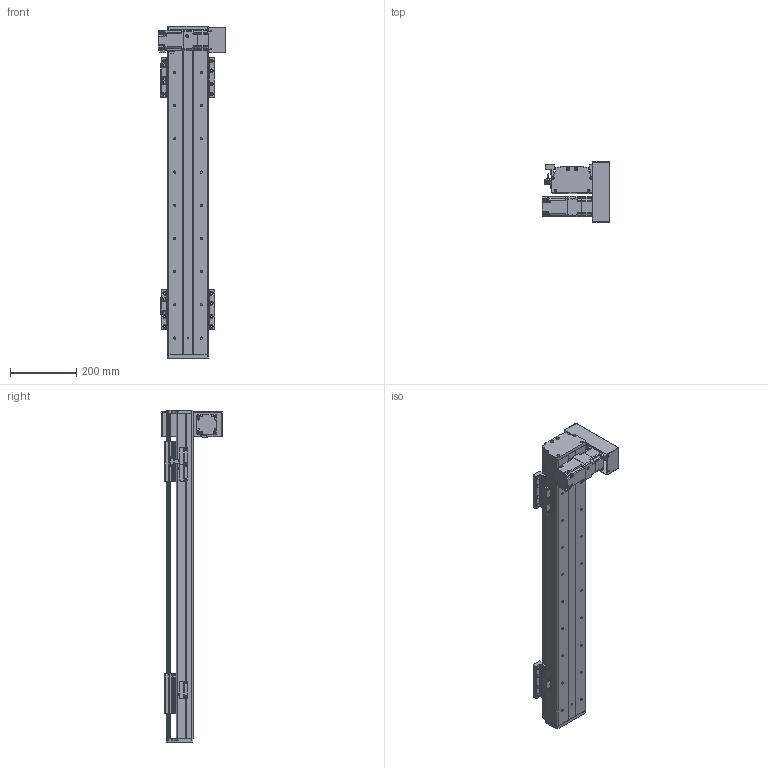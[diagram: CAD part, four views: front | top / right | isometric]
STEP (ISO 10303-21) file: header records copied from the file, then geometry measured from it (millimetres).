
FILE_DESCRIPTION(/* description */ (''),/* implementation_level */ '2;1');
FILE_NAME(/* name */ 'C:\Users\PC\Desktop\3D도면\STEP\새 폴더\DSB125-DR2G-W0700-L.stp',/* time_stamp */ '2018-06-21T14:57:14+09:00',/* author */ ('PC'),/* organization */ (''),/* preprocessor_version */ 'ST-DEVELOPER v16.5',/* originating_system */ 'Autodesk Inventor 2017',/* authorisation */ '');
FILE_SCHEMA (('AUTOMOTIVE_DESIGN { 1 0 10303 214 3 1 1 }'));
Length unit declared in the file: millimetre
Products named in the file (12): DSB125-DL2G-W0700-R_MIR; DSB125-BASE_MIR; DSB125-FRONT COVER_MIR; DSB125-REAR COVER_MIR; DSB125-UP COVER_MIR; hg-kr23__MIR; ab0601-p0401200402_MIR; 13-BELT COVER_MIR; DSR125-SENSOR DOG_MIR; pm-y65_step_MIR; SENSOR BRACKET(EE-SX674A)_MIR; DSB125-TABLE(MSB15S)_MIR
Assembly tree (16 placements, depth 2):
  DSB125-DL2G-W0700-R_MIR
    DSB125-BASE_MIR
    DSB125-FRONT COVER_MIR
    DSB125-REAR COVER_MIR
    DSB125-UP COVER_MIR
    hg-kr23__MIR
    ab0601-p0401200402_MIR
    13-BELT COVER_MIR
    DSR125-SENSOR DOG_MIR
    pm-y65_step_MIR  x3
    SENSOR BRACKET(EE-SX674A)_MIR  x3
    DSB125-TABLE(MSB15S)_MIR  x2
Bounding box: 202.1 x 182 x 1000 mm (x, y, z)
Volume: 3977591.6 mm3; surface area: 1147483.8 mm2
Topology: 17 solids, 17 shells, 1651 faces, 4480 edges, 2954 vertices
Faces by surface type: plane 903, cylinder 626, cone 110, sphere 8, torus 4
Full cylindrical faces by diameter (mm): 2.459 x20, 3.242 x16, 3.5 x6, 4 x1, 4.134 x16, 4.2 x4, 4.3 x1, 4.5 x50, 4.917 x20, 5 x22, 5.3 x1, 5.5 x4, 5.6 x8, 5.8 x4, 5.9 x8, 6 x4, 6.6 x22, 6.647 x20, 7.5 x32, 8.5 x8, 8.7 x1, 11 x22, 14 x1, 16 x2, 17 x1, 20 x1, 47 x1, 50 x3
Entity records: 35801 total; most frequent: CARTESIAN_POINT 6459, DIRECTION 6074, ORIENTED_EDGE 5458, EDGE_CURVE 2729, AXIS2_PLACEMENT_3D 2225, VERTEX_POINT 1938, EDGE_LOOP 1653, LINE 1624
